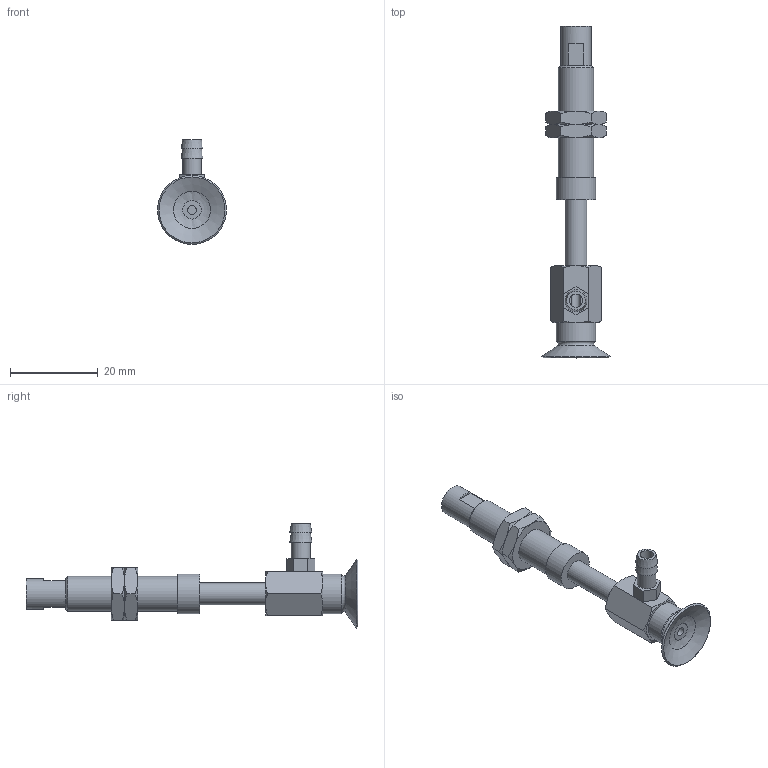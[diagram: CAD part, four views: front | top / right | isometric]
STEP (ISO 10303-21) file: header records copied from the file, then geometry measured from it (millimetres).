
FILE_DESCRIPTION(('STEP AP203'),'1');
FILE_NAME('-T.stp','2025-04-09T07:07:21',(' '),(' '),'Spatial InterOp 3D',' ',' ');
FILE_SCHEMA(('CONFIG_CONTROL_DESIGN'));
Length unit declared in the file: millimetre
Products named in the file (7): BNABPFYS-15A-15-※-T; CONNECTOR-15A-15; Nut-15A-15-s; NAPFTS-15A-15-FBODY; NAPFTS-15A-15-MBODY; BPFG-15A-※; T
Assembly tree (7 placements, depth 2):
  BNABPFYS-15A-15-※-T
    CONNECTOR-15A-15
    Nut-15A-15-s  x2
    NAPFTS-15A-15-FBODY
    NAPFTS-15A-15-MBODY
    BPFG-15A-※
    T
Bounding box: 15.7 x 75.5 x 23.85 mm (x, y, z)
Volume: 4225.9 mm3; surface area: 5397.4 mm2
Topology: 7 solids, 7 shells, 147 faces, 305 edges, 185 vertices
Faces by surface type: plane 63, cone 54, cylinder 20, torus 9, bspline 1
Full cylindrical faces by diameter (mm): 2 x2, 3 x1, 4 x2, 4.134 x2, 4.3 x1, 5 x4, 6 x2, 7 x1, 7.188 x2, 8 x1, 9 x2
Entity records: 3613 total; most frequent: CARTESIAN_POINT 863, DIRECTION 508, ORIENTED_EDGE 412, AXIS2_PLACEMENT_3D 225, EDGE_CURVE 206, EDGE_LOOP 192, FACE_OUTER_BOUND 153, VERTEX_POINT 150
